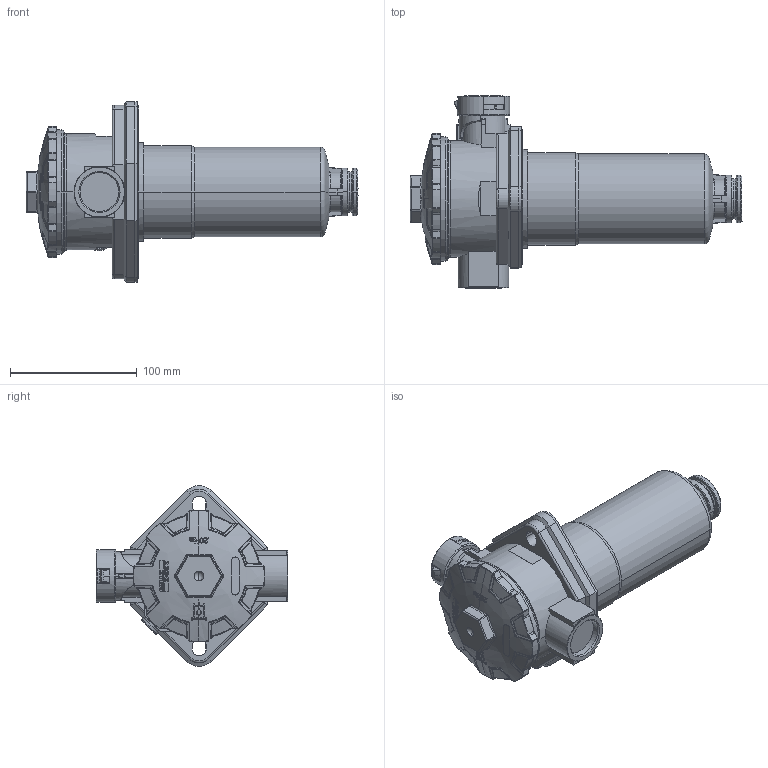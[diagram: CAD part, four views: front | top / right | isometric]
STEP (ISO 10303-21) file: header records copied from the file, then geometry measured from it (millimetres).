
FILE_DESCRIPTION((''),'2;1');
FILE_NAME('E_103-676_SECHSKANT','2024-08-13T10:26:40',('a.heinl'),(''),'CREO PARAMETRIC BY PTC INC, 2023254','CREO PARAMETRIC BY PTC INC, 2023254','');
FILE_SCHEMA(('AUTOMOTIVE_DESIGN { 1 0 10303 214 1 1 1 1 }'));
Length unit declared in the file: millimetre
Products named in the file (1): E_103-676_SECHSKANT
Bounding box: 262.05 x 151.5 x 142.56 mm (x, y, z)
Volume: 1256060.7 mm3; surface area: 113571.3 mm2
Topology: 1 solids, 3 shells, 1154 faces, 3002 edges, 1878 vertices
Faces by surface type: plane 526, cylinder 196, bspline 184, torus 103, cone 82, sphere 48, extrusion 15
Entity records: 61851 total; most frequent: CARTESIAN_POINT 17552, ORIENTED_EDGE 5980, DIRECTION 5427, PRESENTATION_STYLE_ASSIGNMENT 4159, STYLED_ITEM 3006, CURVE_STYLE 3005, EDGE_CURVE 2990, AXIS2_PLACEMENT_3D 2178
